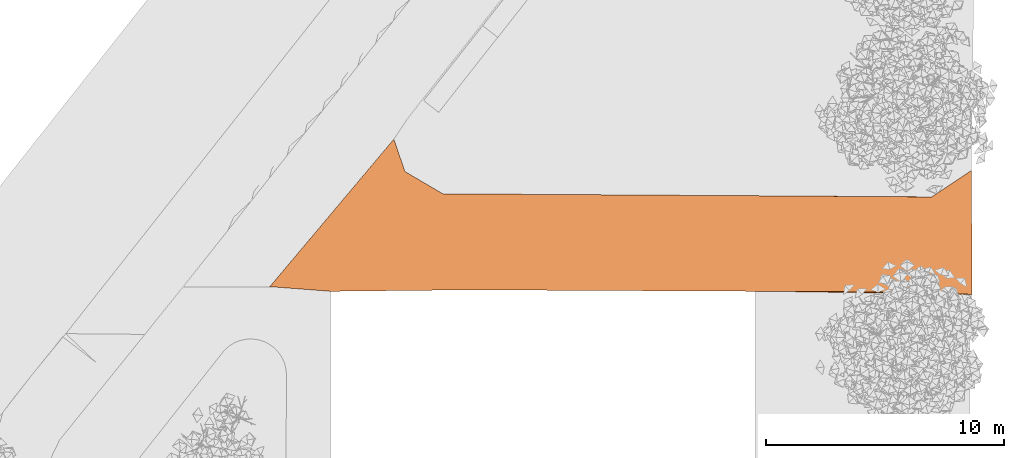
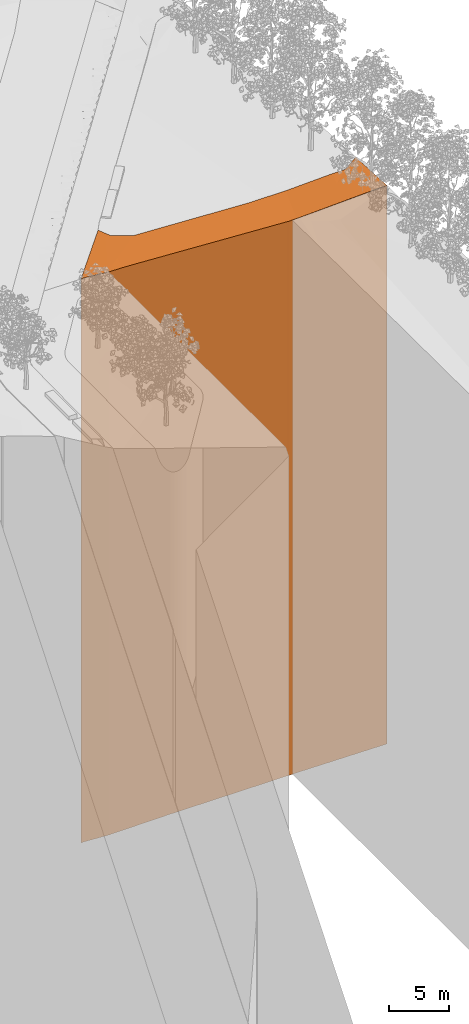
# One storey, part 65 of 69: 1 proxy.
"""IFC2X3 building model written with IfcOpenShell, lengths in millimetres."""

from ifc_helpers import new_model, entity, si_unit, converted_unit, derived_unit, money_unit, direction, frame, origin_with_axes, place, context, subcontext, project, spatial, faceted_brep, material, type_object, element, save


model = new_model("IFC2X3")

# Units and contexts
model_context = context("Model", 3, precision=0.01, world=origin_with_axes(), true_north=direction((0.0, 1.0)))
body_context = subcontext(model_context, "Body", "Model", "MODEL_VIEW")
ifc_project = project(units=[si_unit("LENGTHUNIT", "METRE", prefix="MILLI"), si_unit("AREAUNIT", "SQUARE_METRE"), si_unit("VOLUMEUNIT", "CUBIC_METRE"), converted_unit("PLANEANGLEUNIT", "DEGREE", entity("IfcPlaneAngleMeasure", 0.0174532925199), si_unit("PLANEANGLEUNIT", "RADIAN"), dimensions=[0, 0, 0, 0, 0, 0, 0]), si_unit("SOLIDANGLEUNIT", "STERADIAN"), money_unit("EUR"), converted_unit("TIMEUNIT", "Year", entity("IfcTimeMeasure", 31556926.0), si_unit("TIMEUNIT", "SECOND"), dimensions=[0, 0, 1, 0, 0, 0, 0]), si_unit("MASSUNIT", "GRAM", prefix="KILO"), si_unit("THERMODYNAMICTEMPERATUREUNIT", "DEGREE_CELSIUS"), si_unit("LUMINOUSINTENSITYUNIT", "LUMEN"), si_unit("ENERGYUNIT", "JOULE", prefix="MEGA"), derived_unit("THERMALCONDUCTANCEUNIT", [(si_unit("POWERUNIT", "WATT"), 1), (si_unit("LENGTHUNIT", "METRE"), -1), (si_unit("THERMODYNAMICTEMPERATUREUNIT", "KELVIN"), -1)]), derived_unit("SPECIFICHEATCAPACITYUNIT", [(si_unit("ENERGYUNIT", "JOULE"), 1), (si_unit("MASSUNIT", "GRAM", prefix="KILO"), -1), (si_unit("THERMODYNAMICTEMPERATUREUNIT", "KELVIN"), -1)]), derived_unit("MASSDENSITYUNIT", [(si_unit("MASSUNIT", "GRAM", prefix="KILO"), 1), (si_unit("VOLUMEUNIT", "CUBIC_METRE"), -1)])], contexts=[model_context])

# Site, building, storey
site_placement = place(None, origin_with_axes())
site = spatial("IfcSite", under=ifc_project, at=site_placement, Name="Puškini 31, Narva", CompositionType="ELEMENT")
building_placement = place(site_placement, origin_with_axes())
building = spatial("IfcBuilding", under=site, at=building_placement, Name="Narva Riigigümnaasium", CompositionType="ELEMENT")
storey_placement = place(building_placement, origin_with_axes())
storey = spatial("IfcBuildingStorey", under=building, at=storey_placement, Name="1.korrus 0.00", CompositionType="ELEMENT", Elevation=0.0)

# Proxy
ifc_material = material(Name="Sillutiskivi")
building_element_proxy_type = type_object("IfcBuildingElementProxyType", Name="Sillutiskivi", PredefinedType="NOTDEFINED")
proxy_placement = place(storey_placement, frame((34408.4213293, 254310.129181, -61100.0), z_axis=(0.0, 0.0, 1.0), x_axis=(1.0, 0.0, 0.0)))
element("IfcBuildingElementProxy", 1, at=proxy_placement, inside=storey, type_object=building_element_proxy_type, material=ifc_material, Name="Kergliiklustee", context=body_context, shape_type="Brep", body=[
    faceted_brep([(3554.78989976, 2078.39468952, 57600.0), (3019.88378905, 1047.8421252, 57700.0), (3356.89865588, 868.214189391, 57700.0), (4313.07335093, 1674.23183101, 57600.0), (2222.40163185, 2731.17862574, 57600.0), (1324.19716707, 1878.61872051, 57700.0), (2581.57867085, 129.870818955, 57710.9791603), (3838.11919081, 143.527053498, 57679.8888986), (5269.24804599, 2480.24947358, 57500.0), (4089.69601034, 3108.94725292, 57500.0), (5221.30377912, 6511.25560008, 57200.0), (3137.99010476, 3575.2214932, 57500.0), (5250.35941022, 158.87545123, 57600.0), (4624.60212093, 4139.49981631, 57400.0), (6225.42274105, 3286.26711614, 57400.0), (6678.41777966, 201.975594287, 57500.0), (4053.57857756, 4419.26436067, 57400.0), (4969.16705047, 5263.30722813, 57300.0), (1324.19716707, 1878.61872051, 0.0), (5221.30377912, 6511.25560008, 0.0), (315.890783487, 303.196386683, 57800.0), (3838.11919081, 143.527053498, 0.0), (2581.57867085, 129.870818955, 0.0), (8390.28970692, 193.000593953, 0.0), (8390.28970692, 193.000593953, 57400.0), (7319.54449061, 1517.34677706, 57400.0), (7181.59743611, 4092.2847587, 57300.0), (5159.50823164, 5170.05238063, 57300.0), (0.0, 303.888599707, 0.0), (0.0, 303.888599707, 57800.0), (5686.69724886, 5154.48389649, 57300.0), (5686.69724886, 5154.48389649, 0.0), (7271.56145117, 4222.2007608, 0.0), (27770.6744262, 4092.31211046, 0.0), (29437.0779593, 5199.41401964, 0.0), (29469.9877289, 0.0, 0.0), (20741.6435895, 133.036195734, 0.0), (20001.5786725, 129.870818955, 0.0), (19917.0917023, 138.676673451, 0.0), (17997.5749671, 142.63152892, 0.0), (315.890783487, 303.196386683, 0.0), (17997.5749671, 142.63152892, 56900.0), (16076.1179149, 152.705341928, 57000.0), (14154.6608631, 162.779154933, 57100.0), (12233.2038109, 172.852967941, 57200.0), (10311.7467587, 182.926780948, 57300.0), (7281.06304984, 3931.47381903, 57300.0), (8296.03465199, 490.242060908, 57400.0), (7271.56145117, 4222.2007608, 57300.0), (18352.4977102, 4151.98855908, 56800.0), (22024.4380876, 4128.72202163, 56800.0), (27770.6744262, 4092.31211046, 57000.0), (29437.0779593, 5199.41401964, 57000.0), (29469.9877289, 0.0, 57239.4516665), (20741.6435895, 133.036195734, 56800.0), (20001.5786725, 129.870818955, 56800.0), (19917.0917023, 138.676673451, 56800.0), (17040.5341133, 3160.742632, 56900.0), (15291.6342211, 2626.6425176, 57000.0), (13542.7343289, 2092.54240411, 57100.0), (11793.8344365, 1558.44228972, 57200.0), (10044.9345443, 1024.34217531, 57300.0), (9315.84738175, 4164.87120473, 57200.0), (20832.8968329, 358.469526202, 56800.0), (18789.4340056, 3694.84274641, 56800.0), (26587.2324042, 4096.96506568, 57000.0), (28872.474723, 4087.98014723, 57100.0), (22921.5955669, 118.523251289, 56900.0), (16111.2889685, 4138.15347515, 56900.0), (13846.1417729, 4147.05938439, 57000.0), (11580.9945774, 4155.96529455, 57100.0), (23480.4440729, 1499.11067424, 56900.0), (26127.991313, 2639.75182227, 57000.0), (24301.9900853, 4105.94998414, 56900.0), (28775.5385529, 3780.39297031, 57100.0), (25103.4357195, 108.674881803, 57000.0), (27285.2758718, 98.8265114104, 57100.0)], [[[0, 1, 2, 3]], [[4, 5, 1, 0]], [[2, 1, 6]], [[7, 3, 2]], [[8, 9, 0, 3]], [[4, 10, 5]], [[5, 6, 1]], [[11, 4, 0, 9]], [[7, 2, 6]], [[7, 12, 3]], [[13, 9, 8, 14]], [[8, 3, 12, 15]], [[10, 4, 11, 16, 17]], [[18, 5, 10, 19]], [[20, 6, 5]], [[16, 11, 9, 13]], [[21, 7, 6, 22]], [[23, 24, 12, 7, 21]], [[25, 14, 8, 15]], [[13, 14, 26, 27]], [[24, 15, 12]], [[17, 16, 13, 27]], [[10, 17, 27]], [[28, 29, 5, 18]], [[19, 10, 30, 31]], [[28, 18, 19, 31, 32, 33, 34, 35, 36, 37, 38, 39, 23, 21, 22, 40]], [[22, 6, 20, 40]], [[29, 20, 5]], [[39, 41, 42, 43, 44, 45, 24, 23]], [[25, 46, 26, 14]], [[47, 25, 15]], [[48, 30, 27, 26, 46]], [[24, 47, 15]], [[10, 27, 30]], [[40, 20, 29, 28]], [[31, 30, 48, 32]], [[32, 48, 49, 50, 51, 33]], [[33, 51, 52, 34]], [[34, 52, 53, 35]], [[35, 53, 54, 36]], [[36, 54, 55, 37]], [[37, 55, 56, 38]], [[38, 56, 41, 39]], [[57, 58, 42, 41]], [[43, 42, 58, 59]], [[59, 60, 44, 43]], [[44, 60, 61, 45]], [[45, 61, 47, 24]], [[25, 47, 61, 46]], [[48, 46, 62]], [[62, 49, 48]], [[55, 54, 63, 50, 49, 64, 56]], [[65, 51, 50]], [[52, 51, 66]], [[52, 66, 53]], [[67, 54, 53]], [[64, 57, 41, 56]], [[68, 69, 58, 57]], [[69, 70, 59, 58]], [[59, 70, 62, 60]], [[62, 46, 61, 60]], [[69, 68, 49, 62, 70]], [[71, 63, 54, 67]], [[50, 63, 71]], [[49, 57, 64]], [[51, 65, 72]], [[73, 65, 50]], [[74, 66, 51]], [[74, 53, 66]], [[75, 67, 53, 76]], [[49, 68, 57]], [[72, 71, 67, 75]], [[50, 71, 73]], [[72, 65, 73, 71]], [[51, 72, 74]], [[53, 74, 76]], [[76, 74, 72, 75]]]),
])

save(model, "model.ifc")
